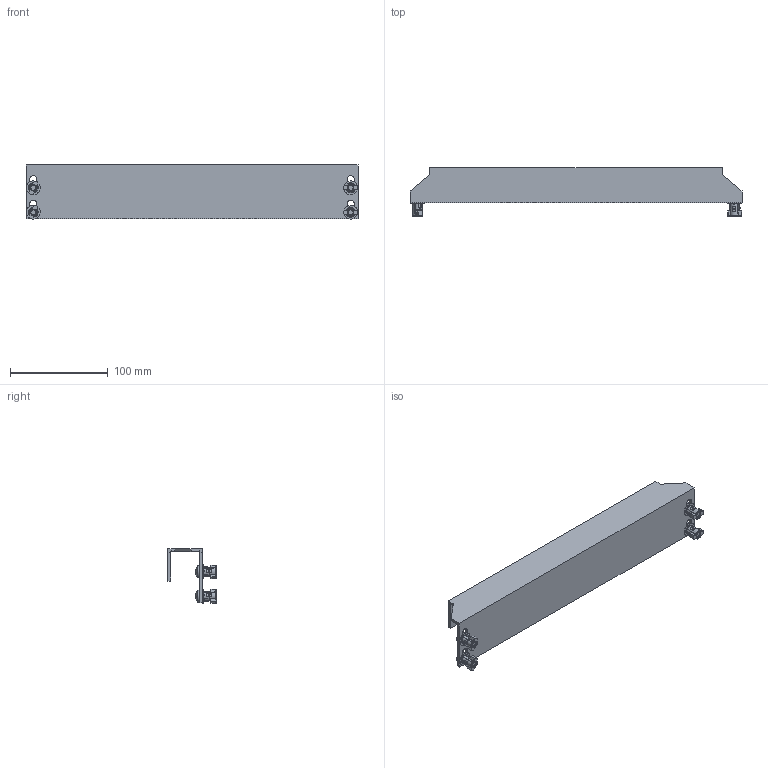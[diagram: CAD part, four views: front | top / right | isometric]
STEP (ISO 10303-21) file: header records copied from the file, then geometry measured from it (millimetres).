
FILE_DESCRIPTION(('Open CASCADE Model'),'2;1');
FILE_NAME('Open CASCADE Shape Model','2025-02-20T14:06:07',('Author'),( 'Open CASCADE'),'Open CASCADE STEP processor 7.8','Open CASCADE 7.8' ,'Unknown');
FILE_SCHEMA(('AUTOMOTIVE_DESIGN { 1 0 10303 214 1 1 1 1 }'));
Length unit declared in the file: millimetre
Products named in the file (4): Compound1; Solid1; Solid2; Solid3
Assembly tree (9 placements, depth 2):
  Compound1
    Solid1
    Solid2  x4
    Solid3  x4
Bounding box: 340 x 50 x 55.58 mm (x, y, z)
Volume: 114234.1 mm3; surface area: 84988.2 mm2
Topology: 13 solids, 13 shells, 818 faces, 2124 edges, 1324 vertices
Faces by surface type: plane 376, cylinder 186, bspline 156, torus 56, cone 40, sphere 4
Full cylindrical faces by diameter (mm): 5 x4, 6 x4, 6.5 x4, 8.3 x4, 12 x4
Entity records: 10413 total; most frequent: CARTESIAN_POINT 3874, ORIENTED_EDGE 1420, DIRECTION 1228, EDGE_CURVE 710, VERTEX_POINT 451, AXIS2_PLACEMENT_3D 424, LINE 380, VECTOR 380
